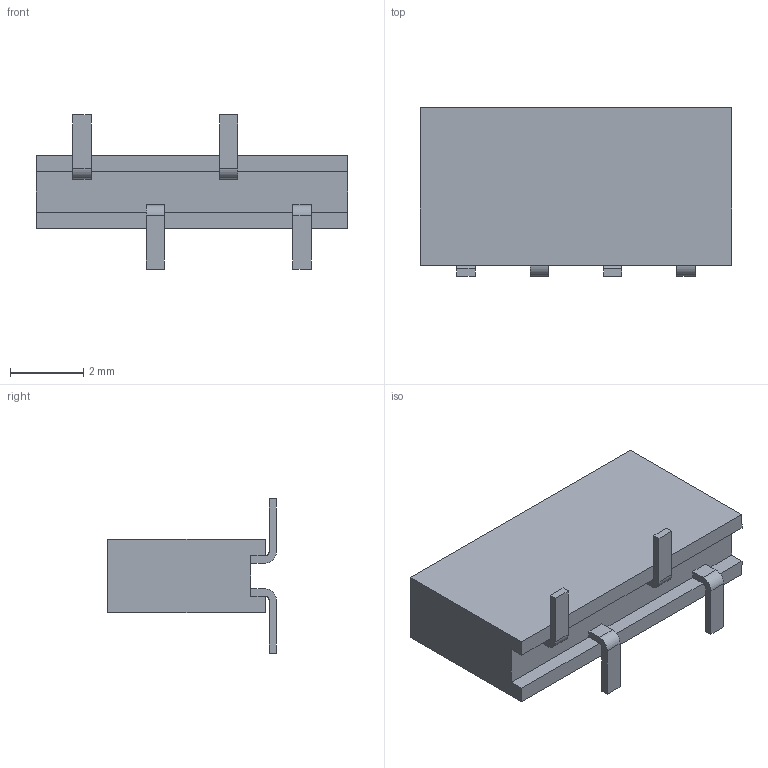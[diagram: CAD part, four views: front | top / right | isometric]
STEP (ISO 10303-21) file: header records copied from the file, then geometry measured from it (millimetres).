
FILE_DESCRIPTION (( 'STEP AP203' ), '1' );
FILE_NAME ('PM200-1-04-S-4.3-XX-X(L4.6) (2.00 等齬 齬譫 泂え 呿詢4.6-HCTL).STEP', '2026-02-06T02:53:43', ( '' ), ( '' ), 'SwSTEP 2.0', 'SolidWorks 2025', '' );
FILE_SCHEMA (( 'CONFIG_CONTROL_DESIGN' ));
Length unit declared in the file: millimetre
Products named in the file (1): PM200-1-04-S-4.3-XX-X(L4.6) (2.00 单排 排母 贴片 塑高4.6-HCTL)
Bounding box: 8.5 x 4.6 x 4.2 mm (x, y, z)
Volume: 68.6 mm3; surface area: 145.8 mm2
Topology: 1 solids, 1 shells, 82 faces, 204 edges, 128 vertices
Faces by surface type: plane 74, cylinder 8
Entity records: 2449 total; most frequent: CARTESIAN_POINT 415, ORIENTED_EDGE 408, DIRECTION 386, EDGE_CURVE 204, LINE 188, VECTOR 188, VERTEX_POINT 128, AXIS2_PLACEMENT_3D 99
